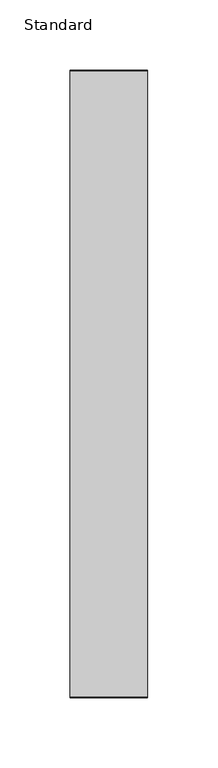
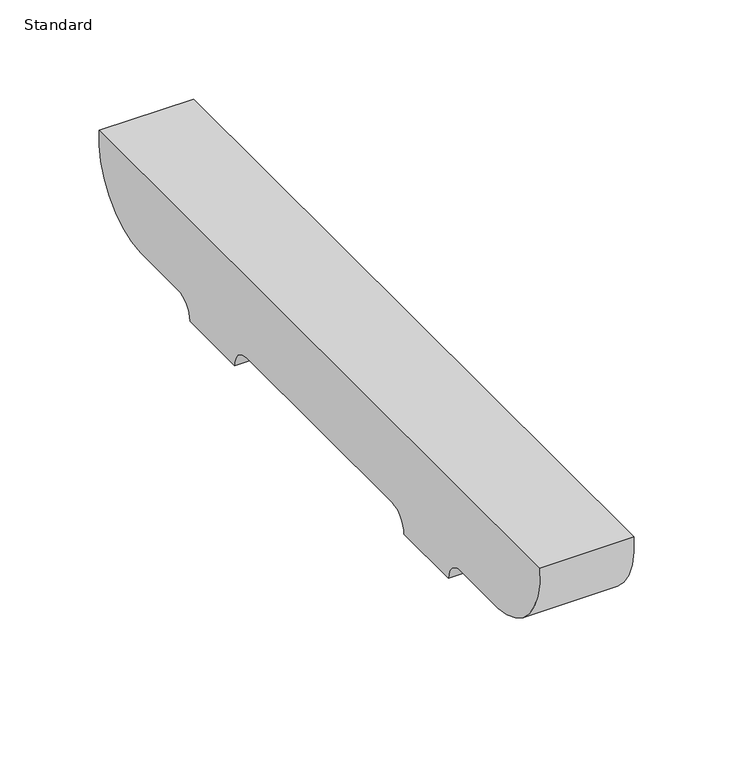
"""IFC4 building model written with IfcOpenShell, lengths in millimetres: furniture geometry, BDG_BossDesign_Tbls_AgentTables4Legs_MiddleCrossBeamNested : Standard."""

from ifc_helpers import new_model, si_unit, point, frame, frame_2d, origin, place, context, project, spatial, polyline, circle_curve, trimmed, segment, composite_curve, outline, extrude, source, transform, mapped, element, save


def standard_764fe6dd(model_context):
    return source(origin(), model_context, "Body", "SweptSolid", [
        extrude(outline(composite_curve([segment(polyline([(180.5450184, 672.0), (142.7000122, 672.0)]), True, "CONTINUOUS"), segment(trimmed(circle_curve(frame_2d((142.7000122, 660.0)), 12.0), [point((142.7000122, 672.0))], [point((130.7000122, 660.0))], True, "CARTESIAN"), True, "CONTINUOUS"), segment(polyline([(130.7000122, 660.0), (85.7000122, 660.0)]), True, "CONTINUOUS"), segment(trimmed(circle_curve(frame_2d((73.7000122, 660.0)), 12.0), [point((85.7000122, 660.0))], [point((73.7000122, 672.0))], True, "CARTESIAN"), True, "CONTINUOUS"), segment(polyline([(73.7000122, 672.0), (-73.7000122, 672.0)]), True, "CONTINUOUS"), segment(trimmed(circle_curve(frame_2d((-73.7000122, 660.0)), 12.0), [point((-73.7000122, 672.0))], [point((-85.7000122, 660.0))], True, "CARTESIAN"), True, "CONTINUOUS"), segment(polyline([(-85.7000122, 660.0), (-130.7000122, 660.0)]), True, "CONTINUOUS"), segment(trimmed(circle_curve(frame_2d((-142.7000122, 660.0)), 12.0), [point((-130.7000122, 660.0))], [point((-142.7000122, 672.0))], True, "CARTESIAN"), True, "CONTINUOUS"), segment(polyline([(-142.7000122, 672.0), (-180.5450184, 672.0)]), True, "CONTINUOUS"), segment(trimmed(circle_curve(frame_2d((-178.2220439, 716.5514119)), 44.6119324), [point((-180.5450184, 672.0))], [point((-222.5, 722.0))], False, "CARTESIAN"), True, "CONTINUOUS"), segment(polyline([(-222.5, 722.0), (222.5, 722.0)]), True, "CONTINUOUS"), segment(trimmed(circle_curve(frame_2d((178.2220439, 716.5514119)), 44.6119324), [point((222.5, 722.0))], [point((180.5450184, 672.0))], False, "CARTESIAN"), True, "CONTINUOUS")], self_intersect=False)), frame((-27.5, 0.0, 0.0), z_axis=(1.0, 0.0, 0.0), x_axis=(0.0, 1.0, 0.0)), (0.0, 0.0, 1.0), 55.0),
    ])


if __name__ == "__main__":
    model = new_model("IFC4")
    model_context = context("Model", 3, world=origin())
    ifc_project = project(units=[si_unit("LENGTHUNIT", "METRE", prefix="MILLI")], contexts=[model_context])
    site = spatial("IfcSite", under=ifc_project)
    building = spatial("IfcBuilding", under=site)
    placement = place(None, origin())
    standard_shape = standard_764fe6dd(model_context)
    element("IfcFurniture", 1, ObjectType="BDG_BossDesign_Tbls_AgentTables4Legs_MiddleCrossBeamNested : Standard", at=placement, inside=building, context=model_context, shape_type="MappedRepresentation", body=[
        mapped(standard_shape, transform((0.0, 0.0, 0.0), x_axis=(1.0, 0.0, 0.0), y_axis=(0.0, 1.0, 0.0), z_axis=(0.0, 0.0, 1.0))),
    ])
    save(model, "model.ifc")
